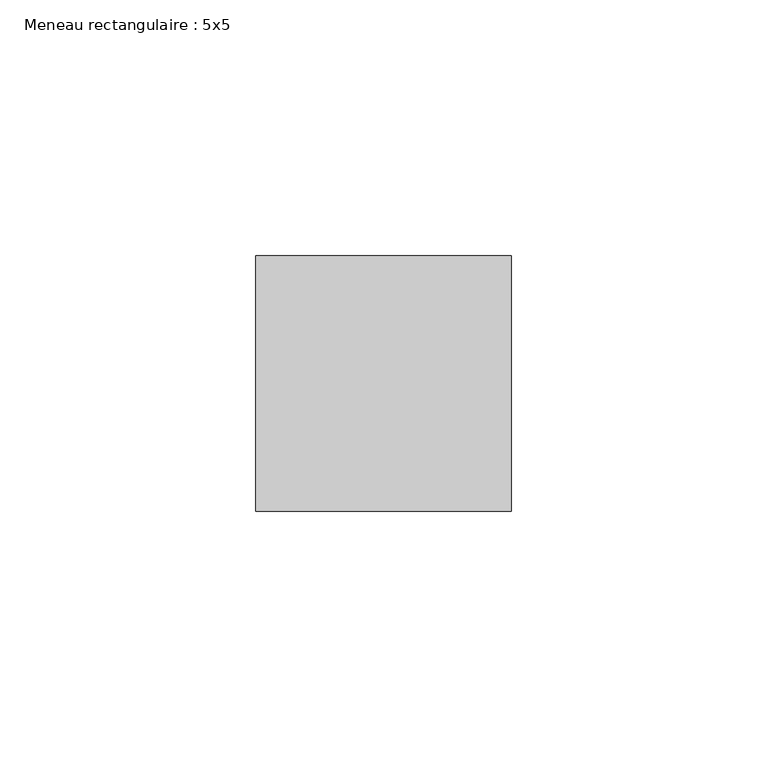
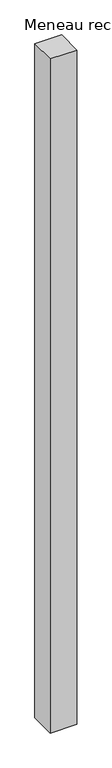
"""IFC4 building model written with IfcOpenShell, lengths in millimetres: member geometry, Meneau rectangulaire : 5x5."""

from ifc_helpers import new_model, si_unit, frame, origin, place, context, project, spatial, polyline, outline, extrude, source, transform, mapped, element, save


def meneau_rectangulaire_5x5_b67f2b80(model_context):
    return source(origin(), model_context, "Body", "SweptSolid", [
        extrude(outline(polyline([(25.0, 25.0), (25.0, -25.0), (-25.0, -25.0), (-25.0, 25.0), (25.0, 25.0)])), frame((0.0, 0.0, -1338.8333333), z_axis=(0.0, 0.0, 1.0), x_axis=(1.0, 0.0, 0.0)), (0.0, 0.0, 1.0), 1338.8333333),
    ])


if __name__ == "__main__":
    model = new_model("IFC4")
    model_context = context("Model", 3, world=origin())
    ifc_project = project(units=[si_unit("LENGTHUNIT", "METRE", prefix="MILLI")], contexts=[model_context])
    site = spatial("IfcSite", under=ifc_project)
    building = spatial("IfcBuilding", under=site)
    placement = place(None, origin())
    meneau_rectangulaire_5x5_shape = meneau_rectangulaire_5x5_b67f2b80(model_context)
    element("IfcMember", 1, ObjectType="Meneau rectangulaire : 5x5", at=placement, inside=building, context=model_context, shape_type="MappedRepresentation", body=[
        mapped(meneau_rectangulaire_5x5_shape, transform((0.0, 0.0, 0.0), x_axis=(1.0, 0.0, 0.0), y_axis=(0.0, 1.0, 0.0), z_axis=(0.0, 0.0, 1.0))),
    ])
    save(model, "model.ifc")
